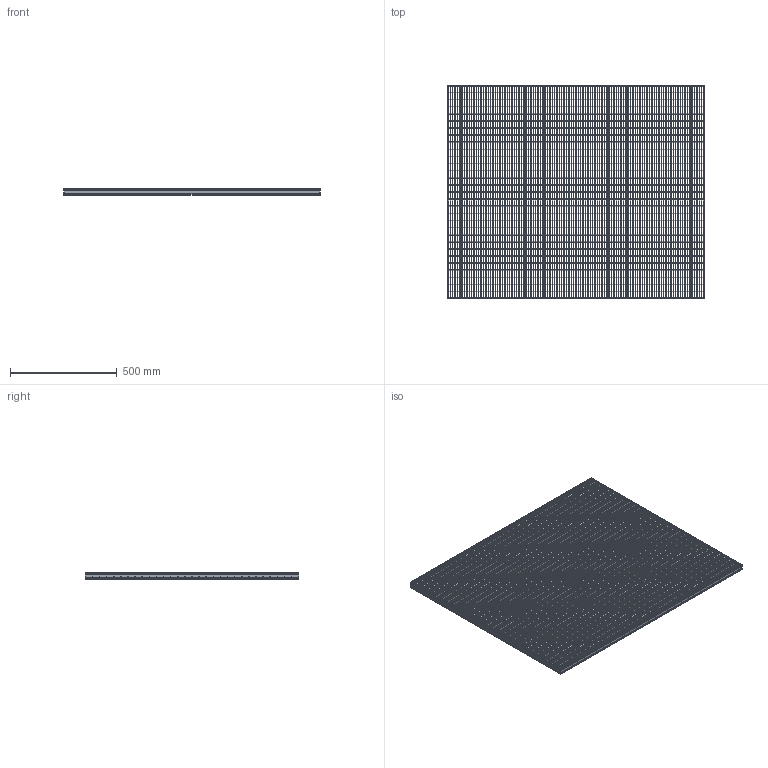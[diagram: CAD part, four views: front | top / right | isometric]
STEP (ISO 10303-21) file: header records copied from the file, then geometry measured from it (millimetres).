
FILE_DESCRIPTION(/* description */ ('STEP AP242','CAx-IF Rec.Pracs.---Representation and Presentation of Product Manufacturing Information (PMI)---4.0---2014-10-13','CAx-IF Rec.Pracs.---3D Tessellated Geometry---0.4---2014-09-14','2;1'),/* implementation_level */ '2;1');
FILE_NAME(/* name */ 'Lichtgitter_Pressure_locked_gratings PX42 330-33_11-3-1-1-1200-1000_(350_0)',/* time_stamp */ '2026-04-23T11:21:43+02:00',/* author */ ('License CC BY-ND 4.0'),/* organization */ ('CADENAS'),/* preprocessor_version */ 'ST-DEVELOPER v20',/* originating_system */ 'PARTsolutions',/* authorisation */ ' ');
FILE_SCHEMA (('AP242_MANAGED_MODEL_BASED_3D_ENGINEERING_MIM_LF { 1 0 10303 442 1 1 4 }'));
Length unit declared in the file: millimetre
Products named in the file (5): Lichtgitter_Pressure_locked_gratings PX42 330-33/11-3-1-1-1200-1000_(
350_0); Lichtgitter PX42 330-11.11/33-3_(Pressroste_350_1_1000_1200)_VERTICAL; Lichtgitter PX42 330-11.11/33-3_(Pressroste_350_1_1000_1200)_HORIZONT
AL_C; Lichtgitter PX42 330-11.11/33-3_(Pressroste_350_1_1000_1200)_HORIZONT
AL; Lichtgitter PX42 330-11.11/33-3_(Pressroste_350_1_1000_1200)_VERTICAL
_C
Assembly tree (140 placements, depth 2):
  Lichtgitter_Pressure_locked_gratings PX42 330-33/11-3-1-1-1200-1000_(
350_0)
    Lichtgitter PX42 330-11.11/33-3_(Pressroste_350_1_1000_1200)_VERTICAL  x2
    Lichtgitter PX42 330-11.11/33-3_(Pressroste_350_1_1000_1200)_HORIZONT
AL_C  x29
    Lichtgitter PX42 330-11.11/33-3_(Pressroste_350_1_1000_1200)_HORIZONT
AL  x2
    Lichtgitter PX42 330-11.11/33-3_(Pressroste_350_1_1000_1200)_VERTICAL
_C  x107
Bounding box: 1200 x 1000 x 30 mm (x, y, z)
Volume: 5439891.8 mm3; surface area: 5211924.4 mm2
Topology: 140 solids, 140 shells, 13300 faces, 39060 edges, 26040 vertices
Faces by surface type: plane 13268, cylinder 32
Entity records: 16767 total; most frequent: CARTESIAN_POINT 2957, ORIENTED_EDGE 2808, DIRECTION 2670, EDGE_CURVE 1404, LINE 1372, VECTOR 1372, VERTEX_POINT 936, AXIS2_PLACEMENT_3D 649
